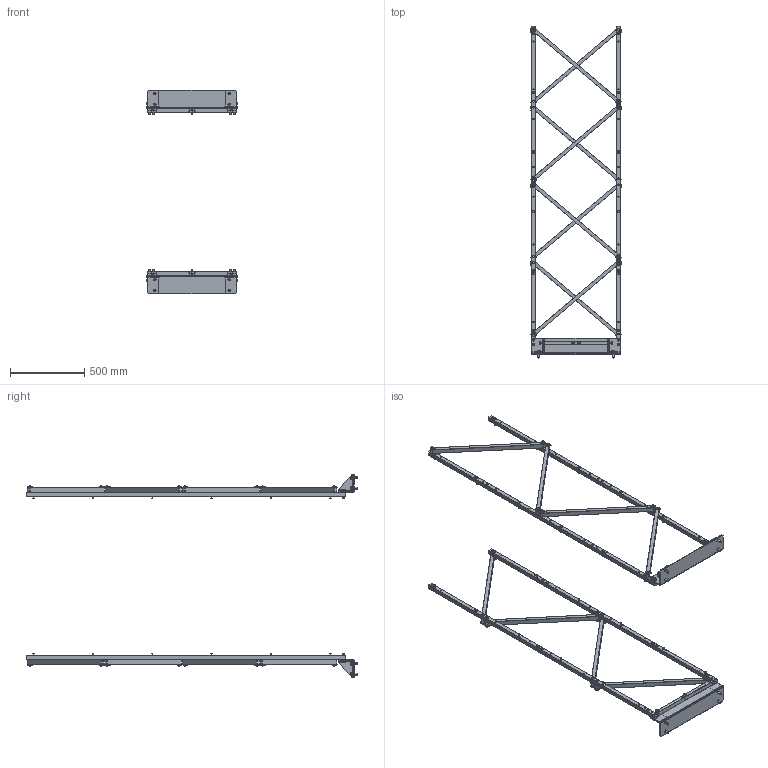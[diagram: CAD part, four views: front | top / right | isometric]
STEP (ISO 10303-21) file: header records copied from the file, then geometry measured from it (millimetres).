
FILE_DESCRIPTION (( 'STEP AP203' ), '1' );
FILE_NAME ('Seismic Kits.STEP', '2017-06-01T06:57:15', ( 'delta' ), ( '' ), 'SwSTEP 2.0', 'SolidWorks 2016', '' );
FILE_SCHEMA (( 'CONFIG_CONTROL_DESIGN' ));
Length unit declared in the file: millimetre
Products named in the file (15): Steel Beam 3; Anchor Bracket-3; SCREW-M12-25L; Anchoring Bracket; V-Beam Set; SCREW-M10-25L; SCREW-M12 HEX S+P-31051182_25L(3105110100); Seismic Kits; N-Anchoring Set; Steel Beam 1; Steel Beam 2; SCREW-Pin-1; CASE BRKT-33185286; LOCK-34699536; Anchor Bracket-2
Assembly tree (58 placements, depth 4):
  Seismic Kits
    N-Anchoring Set  x2
      Anchoring Bracket
        CASE BRKT-33185286
        Anchor Bracket-2
        Anchor Bracket-3
      SCREW-M12 HEX S+P-31051182_25L(3105110100)
      SCREW-M10-25L
    V-Beam Set  x2
      Steel Beam 1
      SCREW-M10-25L
      Steel Beam 2
      SCREW-Pin-1
      LOCK-34699536
      Steel Beam 3
      SCREW-M12-25L
Bounding box: 610.16 x 2231.7 x 1367 mm (x, y, z)
Volume: 13557463.4 mm3; surface area: 2771718 mm2
Topology: 106 solids, 106 shells, 3142 faces, 7240 edges, 4436 vertices
Faces by surface type: cylinder 1196, plane 1158, torus 376, cone 332, bspline 80
Entity records: 17435 total; most frequent: CARTESIAN_POINT 3466, DIRECTION 2555, ORIENTED_EDGE 2154, EDGE_CURVE 1077, AXIS2_PLACEMENT_3D 1011, VERTEX_POINT 672, EDGE_LOOP 591, VECTOR 533
